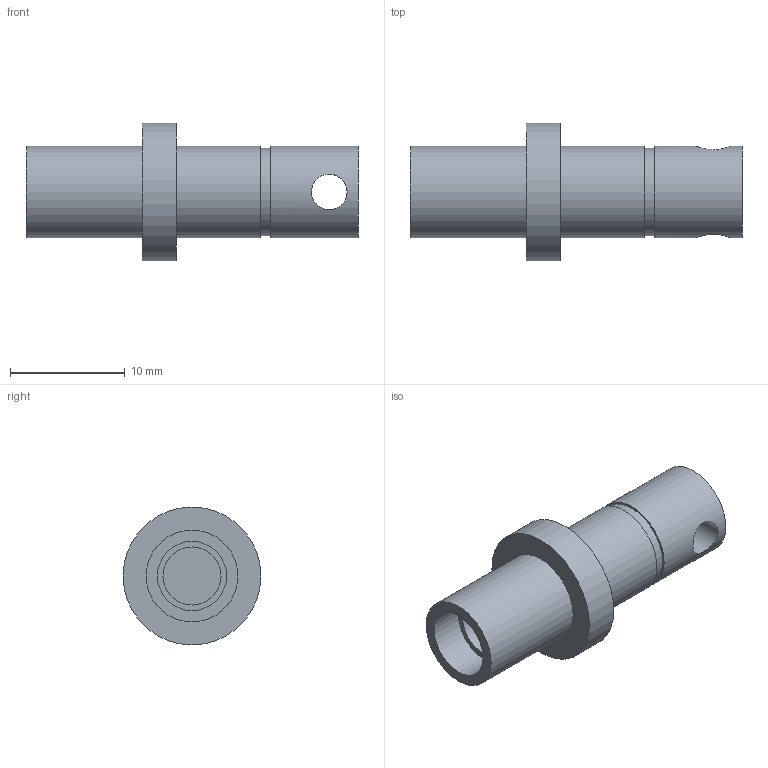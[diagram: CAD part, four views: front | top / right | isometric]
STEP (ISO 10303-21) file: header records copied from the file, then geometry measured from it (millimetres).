
FILE_DESCRIPTION(('Open CASCADE Model'),'2;1');
FILE_NAME('Open CASCADE Shape Model','2026-11-02T23:22:40',('Author'),( 'Open CASCADE'),'Open CASCADE STEP processor 7.9','Open CASCADE 7.9' ,'Unknown');
FILE_SCHEMA(('AUTOMOTIVE_DESIGN { 1 0 10303 214 1 1 1 1 }'));
Length unit declared in the file: millimetre
Products named in the file (1): Open CASCADE STEP translator 7.9 8
Bounding box: 28.9 x 12 x 12 mm (x, y, z)
Volume: 1312.1 mm3; surface area: 1257.8 mm2
Topology: 1 solids, 1 shells, 16 faces, 27 edges, 18 vertices
Faces by surface type: cylinder 8, plane 8
Full cylindrical faces by diameter (mm): 3.1 x1, 5.05 x1, 6.02 x1, 7.6 x1, 8 x3, 12 x1
Entity records: 1386 total; most frequent: CARTESIAN_POINT 794, DIRECTION 111, ORIENTED_EDGE 54, PCURVE 54, DEFINITIONAL_REPRESENTATION 54, LINE 41, VECTOR 41, AXIS2_PLACEMENT_3D 31
